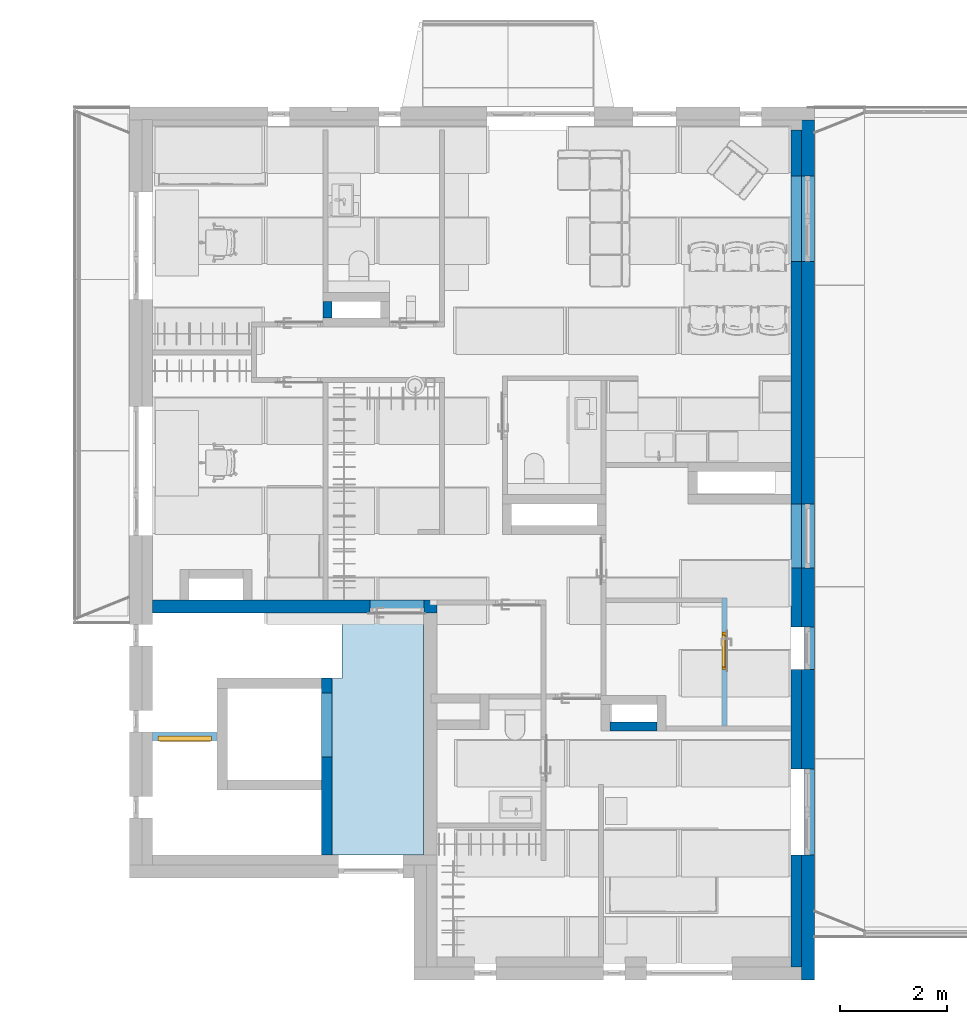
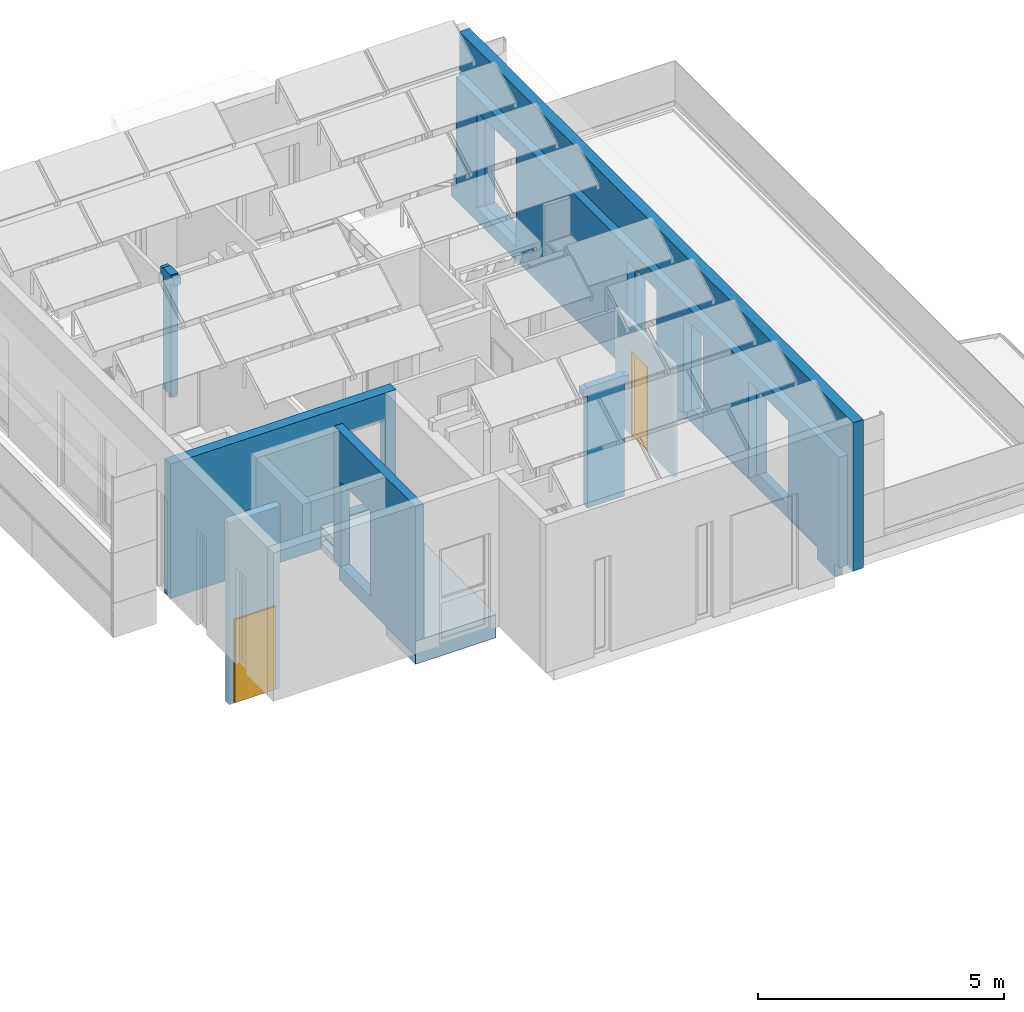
# One storey, part 18 of 57: 6 walls, 2 doors, 1 slab, 2 openings, plus 2 elements that do not belong to this part.
"""IFC2X3 building model written with IfcOpenShell, lengths in millimetres."""

from ifc_helpers import new_model, entity, si_unit, converted_unit, direction, frame, frame_2d, origin, place, context, subcontext, project, spatial, rectangle, extrude, faceted_brep, source, transform, mapped, material, material_list, layer, layer_set, layer_usage, type_object, type_shapes, element, fill, save


model = new_model("IFC2X3")

# Units and contexts
model_context = context("Model", 3, precision=0.01, world=origin(), true_north=direction((6.123233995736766e-17, 1.0)))
plan_context = context("Plan", 3, precision=0.01, world=origin(), true_north=direction((6.123233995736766e-17, 1.0)))
body_context = subcontext(model_context, "Body", "Model", "MODEL_VIEW")
ifc_project = project(units=[si_unit("LENGTHUNIT", "METRE", prefix="MILLI"), converted_unit("PLANEANGLEUNIT", "DEGREE", entity("IfcPlaneAngleMeasure", 0.017453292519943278), si_unit("PLANEANGLEUNIT", "RADIAN"), dimensions=[0, 0, 0, 0, 0, 0, 0]), si_unit("AREAUNIT", "SQUARE_METRE")], contexts=[model_context, plan_context])

# Site, building, storey
site_placement = place(None, origin())
site = spatial("IfcSite", under=ifc_project, at=site_placement, Name="Default", CompositionType="ELEMENT")
building_placement = place(site_placement, origin())
building = spatial("IfcBuilding", under=site, at=building_placement, CompositionType="ELEMENT")
storey_placement = place(building_placement, frame((0.0, 0.0, 12811.000000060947)))
storey = spatial("IfcBuildingStorey", under=building, at=storey_placement, Name="5K", CompositionType="ELEMENT", Elevation=12811.000000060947)

# Slab
ifc_material_1 = material(Name="_K. Betoon. Armeeritud. Kohtvalu")
ifc_material_2 = material(Name="_K. Soojustus. Mineraalvill")
ifc_material_3 = material(Name="_K. Soojustus. EPS")
ifc_material_4 = material(Name="_K. Betoon. Armeeritud. Monteeritav")
ifc_material_list_1 = material_list([ifc_material_1, ifc_material_2, ifc_material_3, ifc_material_4])
slab_type = type_object("IfcSlabType", Name="Floor:VL-03 B", PredefinedType="FLOOR")
slab_placement = place(storey_placement, origin())
element("IfcSlab", 1, at=slab_placement, inside=storey, type_object=slab_type, material=ifc_material_list_1, Name="Floor:VL-03 B", ObjectType="Floor:VL-03 B", PredefinedType="FLOOR", context=body_context, shape_type="Brep", body=[
    faceted_brep([(5050.0, 6404.999959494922, -596.0), (5050.0, 1900.0, -596.0), (3154.9935349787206, 1900.0, -596.0), (3154.993534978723, 3109.993882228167, -596.0), (3349.993534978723, 3109.9938822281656, -596.0), (3349.993534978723, 5189.998421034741, -596.0), (3529.9935349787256, 5189.998421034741, -596.0), (3529.9935349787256, 6404.999959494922, -596.0), (5050.0, 1900.0, -20.0), (5050.0, 6404.999959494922, -20.0), (3529.9935349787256, 6404.999959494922, -20.0), (3529.9935349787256, 5189.998421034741, -20.0), (3349.993534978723, 5189.998421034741, -20.0), (3349.993534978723, 3109.9938822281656, -20.0), (3154.993534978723, 3109.993882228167, -20.0), (3154.9935349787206, 1900.0, -20.0), (3349.9935349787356, 1900.0, -20.0), (3154.9935349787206, 1900.0, -376.0), (3349.993534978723, 3109.9938822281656, -376.0), (3154.993534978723, 3109.993882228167, -376.0), (3529.9935349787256, 5197.496907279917, -449.28330239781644), (3529.9935349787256, 6397.496907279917, -449.2833023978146), (3529.9935349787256, 6397.496907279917, -196.0), (3529.9935349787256, 5197.496907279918, -196.0), (3643.743821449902, 5197.496907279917, -375.08815847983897), (3643.7438214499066, 6397.496907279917, -375.08815847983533), (3643.7438214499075, 6397.496907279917, -196.0), (3643.743821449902, 5197.496907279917, -196.0)], [[[0, 1, 2, 3, 4, 5, 6, 7]], [[8, 9, 10, 11, 12, 13, 14, 15, 16]], [[1, 0, 9, 8]], [[2, 1, 8, 16, 15, 17]], [[5, 4, 18, 13, 12]], [[0, 7, 10, 9]], [[3, 2, 17, 15, 14, 19]], [[4, 3, 19, 14, 13, 18]], [[6, 5, 12, 11]], [[7, 6, 11, 10], [20, 21, 22, 23]], [[24, 25, 21, 20]], [[26, 27, 23, 22]], [[25, 26, 22, 21]], [[27, 24, 20, 23]], [[25, 24, 27, 26]]]),
])

# Walls
ifc_material_5 = material(Name="_K. Müüritis. Väikeplokk. Betoon-õõnesplokk")
ifc_layer_1 = layer(ifc_material_5, 240.0)
ifc_layer_set_1 = layer_set([ifc_layer_1], Name="Basic Wall:Columbia 240mm")
wall_type_1 = type_object("IfcWallType", Name="Basic Wall:Columbia 240mm", PredefinedType="STANDARD", material=ifc_layer_set_1)
wall_1_placement = place(storey_placement, frame((5299.995060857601, 6524.9999594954, -596.0), z_axis=(0.0, 0.0, 1.0), x_axis=(-1.0, 0.0, 0.0)))
element("IfcWall", 2, at=wall_1_placement, inside=storey, type_object=wall_type_1, Name="Basic Wall:Columbia 240mm", ObjectType="Basic Wall:Columbia 240mm", context=body_context, shape_type="Brep", body=[
    faceted_brep([(1244.9978637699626, -120.0, 2696.0), (1244.9978637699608, -120.0, 596.0), (244.99786376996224, -120.0, 596.0), (244.99786376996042, -120.0, 2696.0), (0.0, -120.0, 0.0), (5299.9950608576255, -120.0, 0.0), (5299.9950608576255, -120.0, 3345.998712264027), (4789.995060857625, -120.0, 3345.998712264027), (4619.995060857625, -120.0, 3345.998712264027), (2119.9950608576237, -120.0, 3345.998712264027), (2027.9950608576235, -120.0, 3345.998712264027), (0.0, -120.0, 3345.998712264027), (0.0, -120.0, 596.0000762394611), (125.0, -120.0, 596.0000762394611), (125.0, -120.0, 576.0), (0.0, -120.0, 576.0), (1244.9978637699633, 120.0, 596.0), (1244.9978637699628, 120.0, 2696.0), (244.99786376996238, 120.0, 2696.0), (244.99786376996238, 120.0, 596.0), (250.0, 120.0, 596.0), (5299.9950608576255, 120.0, 0.0), (0.0, 120.0, 0.0), (0.0, 120.0, 576.0), (125.0, 120.0, 576.0), (125.0, 120.0, 596.0000762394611), (0.0, 120.0, 596.0000762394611), (0.0, 120.0, 3345.998712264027), (250.0, 120.0, 3345.998712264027), (5299.995060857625, 120.0, 3345.998712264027), (0.0, -28.0, 3345.998712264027), (125.0, -28.0, 576.0), (125.0, -28.0, 596.0000762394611), (0.0, -28.0, 596.0000762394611)], [[[0, 1, 2, 3], [4, 5, 6, 7, 8, 9, 10, 11, 12, 13, 14, 15]], [[16, 17, 18, 19, 20], [21, 22, 23, 24, 25, 26, 27, 28, 29]], [[5, 4, 22, 21]], [[11, 10, 9, 8, 7, 6, 29, 28, 27, 30]], [[0, 17, 16, 1]], [[1, 16, 20, 19, 2]], [[2, 19, 18, 3]], [[17, 0, 3, 18]], [[14, 31, 24, 23, 15]], [[24, 31, 14, 13, 32, 25]], [[26, 25, 32, 13, 12, 33]], [[22, 4, 15, 23]], [[11, 30, 27, 26, 33, 12]], [[5, 21, 29, 6]]], outer=[[False, True], [False, True], [True], [True], [True], [True], [True], [True], [True], [True], [True], [True], [True], [True]]),
])
ifc_material_6 = material(Name="_K. Väisviimistlus. Krohv. Valge")
ifc_layer_2 = layer(ifc_material_6, 5.0)
ifc_layer_3 = layer(ifc_material_5, 190.00000000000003)
ifc_layer_4 = layer(ifc_material_6, 5.0)
ifc_layer_set_2 = layer_set([ifc_layer_2, ifc_layer_3, ifc_layer_4], Name="Basic Wall:SS-01. 190")
wall_type_2 = type_object("IfcWallType", Name="Basic Wall:SS-01. 190", PredefinedType="STANDARD", material=ifc_layer_set_2)
wall_2_placement = place(storey_placement, frame((3249.9935349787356, 5199.998433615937, -376.0), z_axis=(0.0, 0.0, 1.0), x_axis=(0.0, -1.0, 0.0)))
element("IfcWall", 3, at=wall_2_placement, inside=storey, type_object=wall_type_2, Name="Basic Wall:SS-01. 190", ObjectType="Basic Wall:SS-01. 190", context=body_context, shape_type="Brep", body=[
    faceted_brep([(200.0, -100.0, 0.0), (3299.998433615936, -100.0, 0.0), (3299.998433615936, -100.0, 3699.999999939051), (2090.0045776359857, -100.0, 3699.999999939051), (1900.0045776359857, -100.0, 3699.999999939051), (200.0, -100.0, 3699.999999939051), (0.0, -100.0, 3699.999999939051), (0.0, -100.0, 376.0000762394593), (200.0, -100.0, 376.0000762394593), (1480.0, -100.0, 376.0), (280.0, -100.0, 376.0), (280.0, -100.0, 2476.0), (1480.0, -100.0, 2476.0), (0.0, 100.0, 3699.999999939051), (3299.998433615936, 100.0, 3699.999999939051), (3299.998433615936, 100.0, 356.0), (2090.0045513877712, 100.0, 356.0), (2090.0045513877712, 100.0, 0.0), (200.0, 100.0, 0.0), (200.0, 100.0, 356.0), (200.0, 100.0, 376.0000762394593), (0.0, 100.0, 376.0000762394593), (280.0, 100.0, 376.0), (1480.0, 100.0, 376.0), (1480.0, 100.0, 2476.0), (280.0, 100.0, 2476.0), (2090.00455138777, -95.0, 0.0), (3299.998433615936, -95.0, 0.0), (3299.998433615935, -95.0, 356.0), (2090.00455138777, -95.0, 356.0)], [[[0, 1, 2, 3, 4, 5, 6, 7, 8], [9, 10, 11, 12]], [[13, 14, 15, 16, 17, 18, 19, 20, 21], [22, 23, 24, 25]], [[1, 0, 18, 17, 26, 27]], [[6, 5, 4, 3, 2, 14, 13]], [[10, 9, 23, 22]], [[11, 10, 22, 25]], [[12, 11, 25, 24]], [[9, 12, 24, 23]], [[14, 2, 1, 27, 28, 15]], [[21, 20, 8, 7]], [[0, 8, 20, 19, 18]], [[7, 6, 13, 21]], [[29, 16, 15, 28]], [[29, 28, 27, 26]], [[16, 29, 26, 17]]]),
])
wall_3_placement = place(storey_placement, frame((12000.0, 15600.0, -331.0000458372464), z_axis=(0.0, 0.0, 1.0), x_axis=(0.0, -1.0, 0.0)))
element("IfcWall", 4, at=wall_3_placement, inside=storey, type_object=wall_type_2, Name="Basic Wall:SS-01. 190", ObjectType="Basic Wall:SS-01. 190", context=body_context, shape_type="Brep", body=[
    faceted_brep([(8360.0, -100.0, 2731.0000458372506), (8360.0, -100.0, 331.00004583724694), (7160.0, -100.0, 331.0000458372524), (7160.0, -100.0, 2731.0000458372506), (2650.0, -100.0, 2731.0000458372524), (2650.0, -100.0, 331.00004583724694), (1050.0, -100.0, 331.0000458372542), (1050.0, -100.0, 2731.0000458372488), (15790.0, -100.0, 3080.998758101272), (11390.0, -100.0, 3080.998758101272), (11298.0, -100.0, 3080.998758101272), (7160.0, -100.0, 3080.998758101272), (6990.0, -100.0, 3080.998758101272), (200.0, -100.0, 3080.998758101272), (200.0, -100.0, 331.00012207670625), (10.0, -100.0, 331.00012207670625), (0.0, -100.0, 331.00012207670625), (0.0, -100.0, 0.0), (10.0, -100.0, 0.0), (200.0, -100.0, 0.0), (9195.000040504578, -100.0, 0.0), (9195.000040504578, -100.0, 331.00012207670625), (9450.0, -100.0, 331.0000458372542), (9450.0, -100.0, 2731.0000458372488), (10250.0, -100.0, 2731.0000458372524), (10250.0, -100.0, 331.00012207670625), (12100.0, -100.0, 331.0000458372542), (12100.0, -100.0, 2731.0000458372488), (13700.0, -100.0, 2731.000045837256), (13700.0, -100.0, 331.00012207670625), (14895.0, -100.0, 331.00012207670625), (14895.0, -100.0, 0.0), (15600.0, -100.0, 0.0), (15600.0, -100.0, 331.00012207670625), (15790.0, -100.0, 331.00012207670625), (15790.0, -100.0, 2905.000045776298), (0.0, 90.0, 0.0), (9195.00004050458, 90.0, 0.0), (15790.0, 90.0, 3080.998758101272), (200.0, 90.0, 3080.998758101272), (15790.0, 90.0, 331.00012207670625), (15600.0, 90.0, 331.00012207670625), (15600.0, 90.0, 0.0), (14895.0, 90.0, 0.0), (14895.0, 90.0, 331.00012207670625), (13700.0, 90.0, 331.0000458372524), (13700.0, 90.0, 2731.0000458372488), (12100.0, 90.0, 2731.000045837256), (12100.0, 90.0, 331.00012207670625), (10250.0, 90.0, 331.0000458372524), (10250.0, 90.0, 2731.0000458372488), (9450.0, 90.0, 2731.000045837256), (9450.0, 90.0, 331.00012207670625), (9195.00004050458, 90.0, 331.00012207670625), (0.0, 90.0, 331.00012207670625), (10.0, 90.0, 331.00012207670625), (200.0, 90.0, 331.00012207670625), (8360.0, 90.0, 331.0000458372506), (8360.0, 90.0, 2731.0000458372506), (7160.0, 90.0, 2731.0000458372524), (7160.0, 90.0, 331.00004583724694), (2650.0, 90.0, 331.0000458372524), (2650.0, 90.0, 2731.0000458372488), (1050.0, 90.0, 2731.000045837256), (1050.0, 90.0, 331.00004583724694)], [[[0, 1, 2, 3], [4, 5, 6, 7], [8, 9, 10, 11, 12, 13, 14, 15, 16, 17, 18, 19, 20, 21, 22, 23, 24, 25, 26, 27, 28, 29, 30, 31, 32, 33, 34, 35]], [[17, 36, 37, 20, 19, 18]], [[13, 12, 11, 10, 9, 8, 38, 39]], [[39, 38, 40, 41, 42, 43, 44, 45, 46, 47, 48, 49, 50, 51, 52, 53, 37, 36, 54, 55, 56], [57, 58, 59, 60], [61, 62, 63, 64]], [[29, 28, 46, 45]], [[28, 27, 47, 46]], [[25, 24, 50, 49]], [[24, 23, 51, 50]], [[23, 22, 52, 51]], [[1, 0, 58, 57]], [[0, 3, 59, 58]], [[3, 2, 60, 59]], [[2, 1, 57, 60]], [[5, 4, 62, 61]], [[4, 7, 63, 62]], [[6, 5, 61, 64]], [[7, 6, 64, 63]], [[27, 26, 48, 47]], [[34, 33, 41, 40]], [[33, 32, 42, 41]], [[8, 35, 34, 40, 38]], [[16, 15, 14, 56, 55, 54]], [[17, 16, 54, 36]], [[14, 13, 39, 56]], [[44, 30, 29, 45]], [[53, 21, 20, 37]], [[30, 44, 43, 31]], [[21, 53, 52, 22]], [[26, 25, 49, 48]], [[42, 32, 31, 43]]], outer=[[False, False, True], [True], [True], [True, False, False], [True], [True], [True], [True], [True], [True], [True], [True], [True], [True], [True], [True], [True], [True], [True], [True], [True], [True], [True], [True], [True], [True], [True], [True], [True], [True]]),
])
ifc_layer_5 = layer(ifc_material_6, 10.0)
ifc_material_7 = material(Name="_K. Soojustus. EPS Silver")
ifc_layer_6 = layer(ifc_material_7, 230.0)
ifc_layer_set_3 = layer_set([ifc_layer_5, ifc_layer_6], Name="Basic Wall:VS-01")
wall_type_3 = type_object("IfcWallType", Name="Basic Wall:VS-01", PredefinedType="STANDARD", material=ifc_layer_set_3)
wall_4_placement = place(storey_placement, frame((12210.0, 15830.0, -370.99985510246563), z_axis=(0.0, 0.0, 1.0), x_axis=(0.0, -1.0, 0.0)))
element("IfcWall", 5, at=wall_4_placement, inside=storey, type_object=wall_type_3, Name="Basic Wall:VS-01", ObjectType="Basic Wall:VS-01", context=body_context, shape_type="Brep", body=[
    faceted_brep([(16260.0, -120.0, 4059.9998550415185), (16020.0, -120.0, 4059.9998550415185), (240.0, -120.0, 4059.9998550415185), (240.0, -120.0, 370.9998551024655), (0.0, -120.0, 370.9998551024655), (0.0, -120.0, 0.0), (240.0, -120.0, 0.0), (9425.000040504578, -120.0, 0.0), (9425.000040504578, -120.0, 39.99980926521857), (9425.000040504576, -120.0, 370.9999313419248), (9680.0, -120.0, 370.9998551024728), (9680.0, -120.0, 2770.9998551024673), (10480.0, -120.0, 2770.999855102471), (10480.0, -120.0, 370.9999313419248), (12330.0, -120.0, 370.9998551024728), (12330.0, -120.0, 2770.9998551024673), (13930.0, -120.0, 2770.999855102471), (13930.0, -120.0, 370.9999313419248), (15125.0, -120.0, 370.9999313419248), (15125.0, -120.0, 39.99980926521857), (15125.0, -120.0, 0.0), (15460.0, -120.0, 0.0), (15460.0, -120.0, 370.9999313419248), (15830.0, -120.0, 370.9999313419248), (16020.0, -120.0, 370.9999313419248), (16260.0, -120.0, 370.9999313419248), (2880.0, -120.0, 2770.999855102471), (2880.0, -120.0, 370.9998551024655), (1280.0, -120.0, 370.9998551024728), (1280.0, -120.0, 2770.9998551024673), (8590.0, -120.0, 2770.999855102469), (8590.0, -120.0, 370.9998551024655), (7390.0, -120.0, 370.999855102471), (7390.0, -120.0, 2770.999855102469), (240.0, 120.0, 4059.9998550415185), (16260.0, 120.0, 4059.9998550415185), (16260.0, 120.0, 370.9999313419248), (15460.0, 120.0, 370.9999313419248), (15460.0, 120.0, 345.9998551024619), (15460.0, 120.0, 0.0), (15450.0, 120.0, 0.0), (10.0, 120.0, 0.0), (0.0, 120.0, 0.0), (0.0, 120.0, 345.9998551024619), (0.0, 120.0, 370.9998551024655), (240.0, 120.0, 370.9998551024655), (10480.0, 120.0, 370.999855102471), (10480.0, 120.0, 2770.9998551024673), (9680.0, 120.0, 2770.9998551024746), (9680.0, 120.0, 370.9998551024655), (13930.0, 120.0, 370.999855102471), (13930.0, 120.0, 2770.9998551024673), (12330.0, 120.0, 2770.9998551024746), (12330.0, 120.0, 370.9998551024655), (2880.0, 120.0, 370.999855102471), (2880.0, 120.0, 2770.9998551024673), (1280.0, 120.0, 2770.9998551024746), (1280.0, 120.0, 370.9998551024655), (8590.0, 120.0, 370.99985510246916), (8590.0, 120.0, 2770.999855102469), (7390.0, 120.0, 2770.999855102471), (7390.0, 120.0, 370.9998551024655), (0.0, 0.0, 0.0), (15125.0, -65.00646502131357, 0.0), (9425.000040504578, -65.00646502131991, 0.0), (10480.0, 40.0, 370.999855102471), (10480.0, 30.0, 370.999855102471), (10480.0, -65.00646502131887, 370.9999313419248), (9680.0, 30.0, 370.9998551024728), (9680.0, 40.0, 370.9998551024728), (9680.0, -65.00646502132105, 370.9998551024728), (13930.0, -65.00646502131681, 370.9999313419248), (12330.0, -65.00646502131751, 370.9998551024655), (8590.0, 40.0, 370.99985510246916), (8590.0, 30.0, 370.99985510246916), (7390.0, 30.0, 370.999855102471), (7390.0, 40.0, 370.999855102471), (9425.000040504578, -65.00646502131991, 370.9999313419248), (15125.0, -65.00646502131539, 370.9999313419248)], [[[0, 1, 2, 3, 4, 5, 6, 7, 8, 9, 10, 11, 12, 13, 14, 15, 16, 17, 18, 19, 20, 21, 22, 23, 24, 25], [26, 27, 28, 29], [30, 31, 32, 33]], [[34, 35, 36, 37, 38, 39, 40, 41, 42, 43, 44, 45], [46, 47, 48, 49], [50, 51, 52, 53], [54, 55, 56, 57], [58, 59, 60, 61]], [[5, 62, 42, 41, 40, 39, 21, 20, 63, 64, 7, 6]], [[2, 1, 0, 35, 34]], [[65, 66, 67, 13, 12, 47, 46]], [[47, 12, 11, 48]], [[68, 69, 49, 48, 11, 10, 70]], [[66, 65, 46, 49, 69, 68, 70, 67]], [[16, 51, 50, 71, 17]], [[51, 16, 15, 52]], [[50, 53, 72, 71]], [[26, 55, 54, 27]], [[55, 26, 29, 56]], [[27, 54, 57, 28]], [[56, 29, 28, 57]], [[73, 74, 31, 30, 59, 58]], [[59, 30, 33, 60]], [[75, 76, 61, 60, 33, 32]], [[74, 73, 58, 61, 76, 75, 32, 31]], [[52, 15, 14, 72, 53]], [[22, 37, 36, 25, 24, 23]], [[0, 25, 36, 35]], [[45, 44, 4, 3]], [[42, 62, 5, 4, 44, 43]], [[2, 34, 45, 3]], [[37, 22, 21, 39, 38]], [[70, 77, 64, 63, 78, 71, 72, 67]], [[77, 70, 10, 9]], [[64, 77, 9, 8, 7]], [[78, 63, 20, 19, 18]], [[67, 72, 14, 13]], [[71, 78, 18, 17]]]),
])

# Wall, opening, door
ifc_material_8 = material(Name="_K. Ehitusplaat. Kipsplaat. Erikõva")
ifc_layer_7 = layer(ifc_material_8, 13.000000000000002)
ifc_layer_8 = layer(ifc_material_2, 66.0)
ifc_layer_9 = layer(ifc_material_8, 13.000000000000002)
ifc_layer_set_4 = layer_set([ifc_layer_7, ifc_layer_8, ifc_layer_9], Name="Basic Wall:SS-401")
ifc_layer_usage_1 = layer_usage(ifc_layer_set_4, "AXIS2", "NEGATIVE", 46.00000000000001)
wall_type_4 = type_object("IfcWallType", Name="Basic Wall:SS-401", PredefinedType="STANDARD", material=ifc_layer_set_4)
wall_5_placement = place(storey_placement, frame((10654.0, 4302.0, -20.0), z_axis=(0.0, 0.0, 1.0), x_axis=(0.0, 1.0, 0.0)))
wall_5 = element("IfcWallStandardCase", 6, at=wall_5_placement, inside=storey, type_object=wall_type_4, material=ifc_layer_usage_1, Name="Basic Wall:SS-401", ObjectType="Basic Wall:SS-401", context=body_context, shape_type="SweptSolid", body=[
    extrude(rectangle(XDim=2388.0000000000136, YDim=92.00000000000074, at=frame_2d((1194.0000000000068, -1.7408297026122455e-13), x_axis=(-1.0, 0.0))), origin(), (0.0, 0.0, 1.0), 2769.998712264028),
])
opening_1_placement = place(wall_5_placement, frame((-4302.0, 10654.0, 20.0), z_axis=(0.0, 0.0, 1.0), x_axis=(0.0, -1.0, 0.0)))
opening_1 = element("IfcOpeningElement", 7, at=opening_1_placement, cuts=wall_5, Name="Basic Wall:SS-401", ObjectType="Opening", context=body_context, shape_type="Brep", body=[
    faceted_brep([(9608.0, 5350.0, 2100.0), (9608.0, 6050.0, 2100.0), (9608.0, 6050.0, 0.0), (9608.0, 5350.0, 0.0), (11700.0, 5350.0, 0.0), (11700.0, 5350.0, 2100.0), (11700.0, 6050.0, 0.0), (11700.0, 6050.0, 2100.0)], [[[0, 1, 2, 3]], [[3, 4, 5, 0]], [[2, 6, 4, 3]], [[1, 7, 6, 2]], [[5, 7, 1, 0]], [[7, 5, 4, 6]]]),
])
ifc_material_9 = material(Name="_K. Puit. Peitsitud ja lakitud")
door_style_1 = type_object("IfcDoorStyle", Name="HR_Generic_Hinged_Single:Default. Manteluks lävepakuga. 700 x 2100 mm. Left", ConstructionType="NOTDEFINED", OperationType="NOTDEFINED", ParameterTakesPrecedence=False, Sizeable=False, material=ifc_material_9)
shared_shape_1 = source(origin(), body_context, "Body", "Brep", [
    faceted_brep([(665.0, 1092.0, 20.0), (35.0, 1092.0, 20.0), (35.0, 1062.0, 20.0), (50.0, 1062.0, 20.0), (50.0, 1000.0, 20.0), (650.0, 1000.0, 20.0), (650.0, 1062.0, 20.0), (665.0, 1062.0, 20.0), (35.0, 1092.0, 0.0), (665.0, 1092.0, 0.0), (665.0, 1062.0, 0.0), (650.0, 1062.0, 0.0), (650.0, 1000.0, 0.0), (50.0, 1000.0, 0.0), (50.0, 1062.0, 0.0), (35.0, 1062.0, 0.0)], [[[0, 1, 2, 3, 4, 5, 6, 7]], [[8, 9, 10, 11, 12, 13, 14, 15]], [[1, 0, 9, 8]], [[5, 4, 13, 12]], [[2, 1, 8, 15]], [[0, 7, 10, 9]], [[3, 14, 13, 4]], [[14, 3, 2, 15]], [[6, 11, 10, 7]], [[11, 6, 5, 12]]]),
    faceted_brep([(37.0, 1062.0, 2060.0), (37.0, 1062.0, 25.0), (663.0, 1062.0, 25.0), (663.0, 1062.0, 2060.0), (27.0, 1102.0, 25.0), (27.0, 1102.0, 2070.0), (673.0, 1102.0, 2070.0), (673.0, 1102.0, 25.0), (37.0, 1092.0, 2060.0), (37.0, 1092.0, 25.0), (27.0, 1092.0, 25.0), (673.0, 1092.0, 25.0), (663.0, 1092.0, 25.0), (663.0, 1092.0, 2060.0), (27.0, 1092.0, 2070.0), (673.0, 1092.0, 2070.0)], [[[0, 1, 2, 3]], [[4, 5, 6, 7]], [[1, 0, 8, 9]], [[2, 1, 9, 10, 4, 7, 11, 12]], [[3, 2, 12, 13]], [[0, 3, 13, 8]], [[14, 10, 9, 8, 13, 12, 11, 15]], [[6, 5, 14, 15]], [[7, 6, 15, 11]], [[5, 4, 10, 14]]]),
    faceted_brep([(700.0, 1000.0, 0.0), (650.0, 1000.0, 0.0), (650.0, 1062.0, 0.0), (665.0, 1062.0, 0.0), (665.0, 1092.0, 0.0), (700.0, 1092.0, 0.0), (700.0, 1000.0, 2100.0), (0.0, 1000.0, 2100.0), (0.0, 1000.0, 0.0), (50.0, 1000.0, 0.0), (50.0, 1000.0, 2050.0), (650.0, 1000.0, 2050.0), (650.0, 1062.0, 2050.0), (35.0, 1062.0, 2065.0), (665.0, 1062.0, 2065.0), (50.0, 1062.0, 2050.0), (50.0, 1062.0, 0.0), (35.0, 1062.0, 0.0), (665.0, 1092.0, 2065.0), (0.0, 1092.0, 0.0), (0.0, 1092.0, 2100.0), (700.0, 1092.0, 2100.0), (35.0, 1092.0, 2065.0), (35.0, 1092.0, 0.0)], [[[0, 1, 2, 3, 4, 5]], [[1, 0, 6, 7, 8, 9, 10, 11]], [[1, 11, 12, 2]], [[13, 14, 3, 2, 12, 15, 16, 17]], [[3, 14, 18, 4]], [[19, 20, 21, 5, 4, 18, 22, 23]], [[0, 5, 21, 6]], [[8, 19, 23, 17, 16, 9]], [[19, 8, 7, 20]], [[13, 17, 23, 22]], [[10, 9, 16, 15]], [[7, 6, 21, 20]], [[11, 10, 15, 12]], [[14, 13, 22, 18]]]),
])
type_shapes(door_style_1, [shared_shape_1])
door_1_placement = place(opening_1_placement, frame((9608.0, 6050.0, 0.0), z_axis=(0.0, 0.0, 1.0), x_axis=(0.0, -1.0, 0.0)))
door_1 = element("IfcDoor", 8, at=door_1_placement, inside=storey, type_object=door_style_1, material=ifc_material_9, Name="HR_Generic_Hinged_Single:Default. Manteluks lävepakuga. 700 x 2100 mm. Left", ObjectType="HR_Generic_Hinged_Single:Default. Manteluks lävepakuga. 700 x 2100 mm. Left", OverallHeight=2130.000000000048, OverallWidth=760.0000000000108, context=body_context, shape_type="MappedRepresentation", body=[
    mapped(shared_shape_1, transform((0.0, 0.0, 0.0), scale=1.0)),
])
fill(opening_1, door_1)

# Walls
ifc_layer_10 = layer(ifc_material_6, 10.0)
ifc_material_10 = material(Name="_K. Müüritis. Väikeplokk. Kergkruusplokk")
ifc_layer_11 = layer(ifc_material_10, 150.0)
ifc_layer_12 = layer(ifc_material_6, 10.0)
ifc_layer_set_5 = layer_set([ifc_layer_10, ifc_layer_11, ifc_layer_12], Name="Basic Wall:SS-03. Šahti sein")
wall_type_5 = type_object("IfcWallType", Name="Basic Wall:SS-03. Šahti sein", PredefinedType="STANDARD", material=ifc_layer_set_5)
wall_6_placement = place(storey_placement, frame((3265.0, 12315.0, 0.0), z_axis=(0.0, 0.0, 1.0), x_axis=(0.0, -1.0, 0.0)))
element("IfcWall", 9, at=wall_6_placement, inside=storey, type_object=wall_type_5, Name="Basic Wall:SS-03. Šahti sein", ObjectType="Basic Wall:SS-03. Šahti sein", context=body_context, shape_type="Brep", body=[
    faceted_brep([(105.0, -85.0, 0.0), (415.0, -85.0, 0.0), (415.0, -85.0, 2749.998712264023), (415.0, -85.0, 2793.9987344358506), (539.0, -85.0, 2793.9987344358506), (539.0, -85.0, 2974.998712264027), (415.0, -85.0, 2974.998712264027), (415.0, -85.0, 2994.0), (105.0, -85.0, 2994.0), (105.0, -85.0, 2974.998712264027), (0.0, -85.0, 2974.998712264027), (0.0, -85.0, 2793.9987344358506), (105.0, -85.0, 2793.9987344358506), (105.0, -85.0, 2749.998712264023), (105.0, 85.0, 0.0), (105.0, 85.0, 2793.9987344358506), (0.0, 85.0, 2793.9987344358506), (0.0, 85.0, 2974.998712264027), (105.0, 85.0, 2974.998712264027), (105.0, 85.0, 2994.0), (415.0, 85.0, 2994.0), (415.0, 85.0, 2974.998712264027), (539.0, 85.0, 2974.998712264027), (539.0, 85.0, 2793.9987344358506), (415.0, 85.0, 2793.9987344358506), (415.0, 85.0, 0.0)], [[[0, 1, 2, 3, 4, 5, 6, 7, 8, 9, 10, 11, 12, 13]], [[14, 15, 16, 17, 18, 19, 20, 21, 22, 23, 24, 25]], [[1, 0, 14, 25]], [[8, 7, 20, 19]], [[11, 16, 15, 12]], [[11, 10, 17, 16]], [[9, 18, 17, 10]], [[0, 13, 12, 15, 14]], [[9, 8, 19, 18]], [[23, 4, 3, 24]], [[5, 4, 23, 22]], [[21, 6, 5, 22]], [[3, 2, 1, 25, 24]], [[7, 6, 21, 20]]]),
])
wall_7_placement = place(storey_placement, frame((8423.0, 4295.0, 0.0)))
element("IfcWall", 10, at=wall_7_placement, inside=storey, type_object=wall_type_5, Name="Basic Wall:SS-03. Šahti sein", ObjectType="Basic Wall:SS-03. Šahti sein", context=body_context, shape_type="Brep", body=[
    faceted_brep([(105.0, -85.0, 0.0), (977.0, -85.0, 0.0), (977.0, -85.0, 2749.998712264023), (977.0, -85.0, 2793.999999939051), (1082.0, -85.0, 2793.999999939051), (1082.0, -85.0, 2974.998712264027), (977.0, -85.0, 2974.998712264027), (977.0, -85.0, 2994.0), (105.0, -85.0, 2994.0), (105.0, -85.0, 2974.998712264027), (0.0, -85.0, 2974.998712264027), (0.0, -85.0, 2793.999999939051), (105.0, -85.0, 2793.999999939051), (105.0, -85.0, 2749.998712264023), (105.0, 85.0, 0.0), (105.0, 85.0, 2793.999999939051), (0.0, 85.0, 2793.999999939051), (0.0, 85.0, 2974.998712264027), (105.0, 85.0, 2974.998712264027), (105.0, 85.0, 2994.0), (977.0, 85.0, 2994.0), (977.0, 85.0, 2974.998712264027), (1082.0, 85.0, 2974.998712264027), (1082.0, 85.0, 2793.999999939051), (977.0, 85.0, 2793.999999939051), (977.0, 85.0, 0.0)], [[[0, 1, 2, 3, 4, 5, 6, 7, 8, 9, 10, 11, 12, 13]], [[14, 15, 16, 17, 18, 19, 20, 21, 22, 23, 24, 25]], [[1, 0, 14, 25]], [[8, 7, 20, 19]], [[11, 16, 15, 12]], [[0, 13, 12, 15, 14]], [[23, 4, 3, 24]], [[5, 4, 23, 22]], [[21, 6, 5, 22]], [[3, 2, 1, 25, 24]], [[7, 6, 21, 20]], [[11, 10, 17, 16]], [[9, 18, 17, 10]], [[9, 8, 19, 18]]]),
])

# Wall, opening, door
ifc_layer_usage_2 = layer_usage(ifc_layer_set_5, "AXIS2", "NEGATIVE", 85.00000000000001)
wall_8_placement = place(storey_placement, frame((0.0, 4105.0, -1780.9999618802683)))
wall_8 = element("IfcWallStandardCase", 11, at=wall_8_placement, inside=storey, type_object=wall_type_5, material=ifc_layer_usage_2, Name="Basic Wall:SS-03. Šahti sein", ObjectType="Basic Wall:SS-03. Šahti sein", context=body_context, shape_type="SweptSolid", body=[
    extrude(rectangle(XDim=1199.9935349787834, YDim=170.00000000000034, at=frame_2d((599.9967674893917, 3.552713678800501e-14), x_axis=(-1.0, 0.0))), origin(), (0.0, 0.0, 1.0), 4530.998674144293),
])
opening_2_placement = place(wall_8_placement, frame((0.0, -4105.0, 0.9999618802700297)))
opening_2 = element("IfcOpeningElement", 12, at=opening_2_placement, cuts=wall_8, Name="Basic Wall:SS-03. Šahti sein", ObjectType="Opening", context=body_context, shape_type="Brep", body=[
    faceted_brep([(104.99676748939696, 5112.0, 2100.0), (1104.9967674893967, 5112.0, 2100.0), (1104.9967674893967, 5112.0, 0.0), (104.99676748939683, 5112.0, 0.0), (104.99676748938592, 3020.0, 0.0), (104.99676748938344, 3020.0, 2100.0), (1104.996767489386, 3020.0, 0.0), (1104.996767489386, 3020.0, 2100.0)], [[[0, 1, 2, 3]], [[3, 4, 5, 0]], [[2, 6, 4, 3]], [[1, 7, 6, 2]], [[5, 7, 1, 0]], [[7, 5, 4, 6]]]),
])
ifc_material_11 = material(Name="<Unnamed>")
ifc_material_12 = material(Name="Default")
ifc_material_list_2 = material_list([ifc_material_11, ifc_material_12])
door_style_2 = type_object("IfcDoorStyle", Name="HR_Generic_Hinged_Single:Default. Manteluks lävepakuga. 1000 x 2100 mm. Left", ConstructionType="NOTDEFINED", OperationType="NOTDEFINED", ParameterTakesPrecedence=False, Sizeable=False, material=ifc_material_list_2)
shared_shape_2 = source(origin(), body_context, "Body", "Brep", [
    faceted_brep([(965.0, 1092.0, 20.0), (35.0, 1092.0, 20.0), (35.0, 1062.0, 20.0), (50.0, 1062.0, 20.0), (50.0, 1000.0, 20.0), (950.0, 1000.0, 20.0), (950.0, 1062.0, 20.0), (965.0, 1062.0, 20.0), (35.0, 1092.0, 0.0), (965.0, 1092.0, 0.0), (965.0, 1062.0, 0.0), (950.0, 1062.0, 0.0), (950.0, 1000.0, 0.0), (50.0, 1000.0, 0.0), (50.0, 1062.0, 0.0), (35.0, 1062.0, 0.0)], [[[0, 1, 2, 3, 4, 5, 6, 7]], [[8, 9, 10, 11, 12, 13, 14, 15]], [[1, 0, 9, 8]], [[5, 4, 13, 12]], [[2, 1, 8, 15]], [[0, 7, 10, 9]], [[3, 14, 13, 4]], [[14, 3, 2, 15]], [[6, 11, 10, 7]], [[11, 6, 5, 12]]]),
    faceted_brep([(37.0, 1062.0, 2060.0), (37.0, 1062.0, 25.0), (963.0, 1062.0, 25.0), (963.0, 1062.0, 2060.0), (27.0, 1102.0, 25.0), (27.0, 1102.0, 2070.0), (973.0, 1102.0, 2070.0), (973.0, 1102.0, 25.0), (37.0, 1092.0, 2060.0), (37.0, 1092.0, 25.0), (27.0, 1092.0, 25.0), (973.0, 1092.0, 25.0), (963.0, 1092.0, 25.0), (963.0, 1092.0, 2060.0), (27.0, 1092.0, 2070.0), (973.0, 1092.0, 2070.0)], [[[0, 1, 2, 3]], [[4, 5, 6, 7]], [[1, 0, 8, 9]], [[2, 1, 9, 10, 4, 7, 11, 12]], [[3, 2, 12, 13]], [[0, 3, 13, 8]], [[14, 10, 9, 8, 13, 12, 11, 15]], [[6, 5, 14, 15]], [[7, 6, 15, 11]], [[5, 4, 10, 14]]]),
    faceted_brep([(1000.0, 1000.0, 0.0), (950.0, 1000.0, 0.0), (950.0, 1062.0, 0.0), (965.0, 1062.0, 0.0), (965.0, 1092.0, 0.0), (1000.0, 1092.0, 0.0), (1000.0, 1000.0, 2100.0), (0.0, 1000.0, 2100.0), (0.0, 1000.0, 0.0), (50.0, 1000.0, 0.0), (50.0, 1000.0, 2050.0), (950.0, 1000.0, 2050.0), (950.0, 1062.0, 2050.0), (35.0, 1062.0, 2065.0), (965.0, 1062.0, 2065.0), (50.0, 1062.0, 2050.0), (50.0, 1062.0, 0.0), (35.0, 1062.0, 0.0), (965.0, 1092.0, 2065.0), (0.0, 1092.0, 0.0), (0.0, 1092.0, 2100.0), (1000.0, 1092.0, 2100.0), (35.0, 1092.0, 2065.0), (35.0, 1092.0, 0.0)], [[[0, 1, 2, 3, 4, 5]], [[1, 0, 6, 7, 8, 9, 10, 11]], [[1, 11, 12, 2]], [[13, 14, 3, 2, 12, 15, 16, 17]], [[3, 14, 18, 4]], [[19, 20, 21, 5, 4, 18, 22, 23]], [[0, 5, 21, 6]], [[8, 19, 23, 17, 16, 9]], [[19, 8, 7, 20]], [[13, 17, 23, 22]], [[10, 9, 16, 15]], [[7, 6, 21, 20]], [[11, 10, 15, 12]], [[14, 13, 22, 18]]]),
])
type_shapes(door_style_2, [shared_shape_2])
door_2_placement = place(opening_2_placement, frame((1104.9967674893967, 5112.0, 0.0), z_axis=(0.0, 0.0, 1.0), x_axis=(-1.0, 0.0, 0.0)))
door_2 = element("IfcDoor", 13, at=door_2_placement, inside=storey, type_object=door_style_2, material=ifc_material_list_2, Name="HR_Generic_Hinged_Single:Default. Manteluks lävepakuga. 1000 x 2100 mm. Left", ObjectType="HR_Generic_Hinged_Single:Default. Manteluks lävepakuga. 1000 x 2100 mm. Left", OverallHeight=2130.000000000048, OverallWidth=1060.0000000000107, context=body_context, shape_type="MappedRepresentation", body=[
    mapped(shared_shape_2, transform((0.0, 0.0, 0.0), scale=1.0)),
])
fill(opening_2, door_2)

save(model, "model.ifc")
